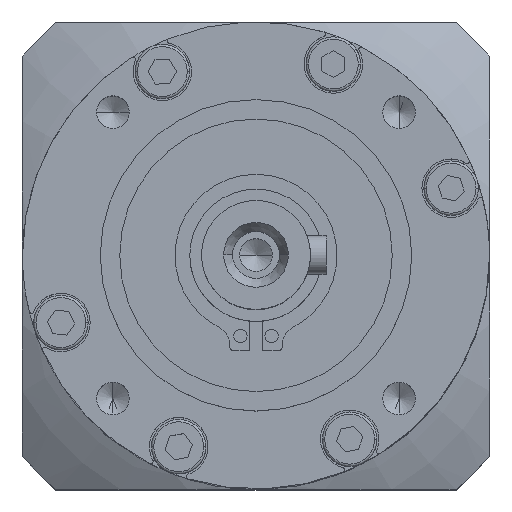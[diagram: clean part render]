
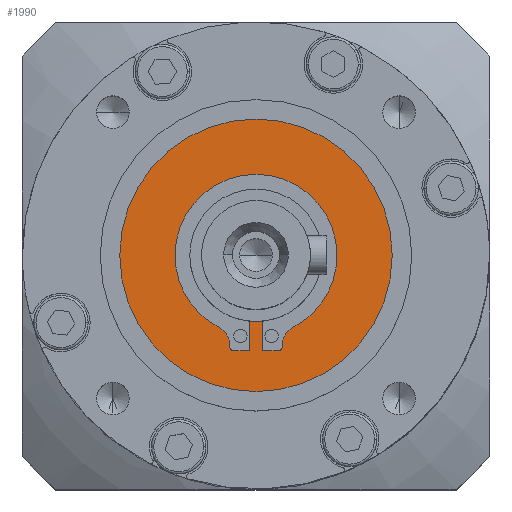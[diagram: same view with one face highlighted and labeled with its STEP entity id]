
A CAD part, top view. The second image highlights one B-rep face of the part: STEP entity #1990.
In plain terms, the highlighted planar face has unit normal (0, 0, 1).
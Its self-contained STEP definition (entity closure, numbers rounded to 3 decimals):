
#67 = VECTOR ( 'NONE', #24128, 1000. ) ;
#106 = DIRECTION ( 'NONE',  ( -1., 0., 0. ) ) ;
#259 = CARTESIAN_POINT ( 'NONE',  ( 0., 0., -1. ) ) ;
#421 = CARTESIAN_POINT ( 'NONE',  ( 0., 0., -1. ) ) ;
#656 = CARTESIAN_POINT ( 'NONE',  ( 0., -12.257, -1. ) ) ;
#1990 = ADVANCED_FACE ( 'NONE', ( #14221, #5083 ), #35353, .F. ) ;
#2624 = EDGE_CURVE ( 'NONE', #19996, #13009, #16291, .T. ) ;
#3114 = VERTEX_POINT ( 'NONE', #9226 ) ;
#3629 = DIRECTION ( 'NONE',  ( 0., 1., 0. ) ) ;
#3654 = DIRECTION ( 'NONE',  ( -1., 0., 0. ) ) ;
#3815 = DIRECTION ( 'NONE',  ( 1., 0., 0. ) ) ;
#3845 = CARTESIAN_POINT ( 'NONE',  ( -3.35, 0., -1. ) ) ;
#3931 = ORIENTED_EDGE ( 'NONE', *, *, #27485, .T. ) ;
#4302 = DIRECTION ( 'NONE',  ( 0., 0., 1. ) ) ;
#4596 = VECTOR ( 'NONE', #12412, 1000. ) ;
#5067 = DIRECTION ( 'NONE',  ( 0., 0., 1. ) ) ;
#5083 = FACE_BOUND ( 'NONE', #11645, .T. ) ;
#6140 = EDGE_CURVE ( 'NONE', #13620, #3114, #11328, .T. ) ;
#6507 = EDGE_LOOP ( 'NONE', ( #3931, #8925 ) ) ;
#6712 = ORIENTED_EDGE ( 'NONE', *, *, #18131, .F. ) ;
#6819 = ORIENTED_EDGE ( 'NONE', *, *, #6140, .F. ) ;
#7730 = VERTEX_POINT ( 'NONE', #41342 ) ;
#7796 = LINE ( 'NONE', #656, #42371 ) ;
#8319 = CIRCLE ( 'NONE', #40771, 10.4 ) ;
#8889 = CARTESIAN_POINT ( 'NONE',  ( 0., -12.257, -1. ) ) ;
#8925 = ORIENTED_EDGE ( 'NONE', *, *, #20864, .T. ) ;
#9124 = LINE ( 'NONE', #3845, #67 ) ;
#9226 = CARTESIAN_POINT ( 'NONE',  ( -3.35, -11.497, -1. ) ) ;
#9779 = AXIS2_PLACEMENT_3D ( 'NONE', #25318, #5067, #28603 ) ;
#11064 = VECTOR ( 'NONE', #3629, 1000. ) ;
#11328 = CIRCLE ( 'NONE', #36432, 2.5 ) ;
#11469 = CIRCLE ( 'NONE', #9779, 17.5 ) ;
#11470 = CARTESIAN_POINT ( 'NONE',  ( -4.716, -9.269, -1. ) ) ;
#11545 = CARTESIAN_POINT ( 'NONE',  ( 2.85, -11.757, -1. ) ) ;
#11645 = EDGE_LOOP ( 'NONE', ( #37109, #6712, #6819, #38251, #23456, #41319, #43477, #41571, #15004, #28571, #18912, #37998, #19534, #32987 ) ) ;
#12107 = CARTESIAN_POINT ( 'NONE',  ( -10.4, 0., -1. ) ) ;
#12210 = CARTESIAN_POINT ( 'NONE',  ( 3.35, -11.757, -1. ) ) ;
#12412 = DIRECTION ( 'NONE',  ( 0., 1., 0. ) ) ;
#12477 = EDGE_CURVE ( 'NONE', #27832, #15142, #31416, .T. ) ;
#12718 = EDGE_CURVE ( 'NONE', #34870, #41953, #8319, .T. ) ;
#12998 = CARTESIAN_POINT ( 'NONE',  ( 0., 0., -1. ) ) ;
#13009 = VERTEX_POINT ( 'NONE', #39118 ) ;
#13620 = VERTEX_POINT ( 'NONE', #11470 ) ;
#14221 = FACE_OUTER_BOUND ( 'NONE', #6507, .T. ) ;
#14984 = DIRECTION ( 'NONE',  ( -1., 0., 0. ) ) ;
#15004 = ORIENTED_EDGE ( 'NONE', *, *, #19117, .F. ) ;
#15142 = VERTEX_POINT ( 'NONE', #32365 ) ;
#15794 = EDGE_CURVE ( 'NONE', #29467, #39690, #27033, .T. ) ;
#15845 = AXIS2_PLACEMENT_3D ( 'NONE', #12998, #36234, #16381 ) ;
#16021 = CIRCLE ( 'NONE', #15845, 10.4 ) ;
#16291 = CIRCLE ( 'NONE', #32429, 0.5 ) ;
#16381 = DIRECTION ( 'NONE',  ( -1., 0., 0. ) ) ;
#17703 = AXIS2_PLACEMENT_3D ( 'NONE', #35172, #35034, #35001 ) ;
#18131 = EDGE_CURVE ( 'NONE', #3114, #19996, #9124, .T. ) ;
#18628 = CIRCLE ( 'NONE', #30485, 0.5 ) ;
#18912 = ORIENTED_EDGE ( 'NONE', *, *, #24765, .F. ) ;
#19117 = EDGE_CURVE ( 'NONE', #39690, #34008, #18628, .T. ) ;
#19324 = CARTESIAN_POINT ( 'NONE',  ( -0.85, 0., -1. ) ) ;
#19534 = ORIENTED_EDGE ( 'NONE', *, *, #12477, .F. ) ;
#19739 = DIRECTION ( 'NONE',  ( 0., 0., -1. ) ) ;
#19996 = VERTEX_POINT ( 'NONE', #28263 ) ;
#20143 = CARTESIAN_POINT ( 'NONE',  ( 0.85, -12.257, -1. ) ) ;
#20413 = CARTESIAN_POINT ( 'NONE',  ( 3.35, 0., -1. ) ) ;
#20435 = DIRECTION ( 'NONE',  ( 0., 0., 1. ) ) ;
#20472 = AXIS2_PLACEMENT_3D ( 'NONE', #40297, #20435, #106 ) ;
#20761 = VECTOR ( 'NONE', #21979, 1000. ) ;
#20864 = EDGE_CURVE ( 'NONE', #23023, #7730, #11469, .T. ) ;
#21979 = DIRECTION ( 'NONE',  ( 0., -1., 0. ) ) ;
#22191 = DIRECTION ( 'NONE',  ( -1., 0., 0. ) ) ;
#22247 = DIRECTION ( 'NONE',  ( 0., 0., 1. ) ) ;
#22281 = CARTESIAN_POINT ( 'NONE',  ( -2.85, -11.757, -1. ) ) ;
#23023 = VERTEX_POINT ( 'NONE', #25759 ) ;
#23456 = ORIENTED_EDGE ( 'NONE', *, *, #12718, .F. ) ;
#23610 = AXIS2_PLACEMENT_3D ( 'NONE', #421, #24099, #3815 ) ;
#23936 = DIRECTION ( 'NONE',  ( 0., 0., 1. ) ) ;
#24099 = DIRECTION ( 'NONE',  ( 0., 0., 1. ) ) ;
#24128 = DIRECTION ( 'NONE',  ( 0., -1., 0. ) ) ;
#24569 = CARTESIAN_POINT ( 'NONE',  ( 0., 0., -1. ) ) ;
#24765 = EDGE_CURVE ( 'NONE', #38620, #29467, #30597, .T. ) ;
#25318 = CARTESIAN_POINT ( 'NONE',  ( 0., 0., -1. ) ) ;
#25412 = EDGE_CURVE ( 'NONE', #15142, #38620, #39410, .T. ) ;
#25633 = DIRECTION ( 'NONE',  ( -1., 0., 0. ) ) ;
#25746 = DIRECTION ( 'NONE',  ( 0., 0., -1. ) ) ;
#25759 = CARTESIAN_POINT ( 'NONE',  ( -17.5, 0., -1. ) ) ;
#26506 = AXIS2_PLACEMENT_3D ( 'NONE', #24569, #4302, #27865 ) ;
#26774 = CARTESIAN_POINT ( 'NONE',  ( -0.85, -12.257, -1. ) ) ;
#27017 = CARTESIAN_POINT ( 'NONE',  ( -5.85, -11.497, -1. ) ) ;
#27033 = LINE ( 'NONE', #8889, #36900 ) ;
#27485 = EDGE_CURVE ( 'NONE', #7730, #23023, #32528, .T. ) ;
#27832 = VERTEX_POINT ( 'NONE', #26774 ) ;
#27865 = DIRECTION ( 'NONE',  ( -1., 0., 0. ) ) ;
#27878 = EDGE_CURVE ( 'NONE', #34008, #40565, #37681, .T. ) ;
#28008 = CARTESIAN_POINT ( 'NONE',  ( 10.4, 0., -1. ) ) ;
#28263 = CARTESIAN_POINT ( 'NONE',  ( -3.35, -11.757, -1. ) ) ;
#28571 = ORIENTED_EDGE ( 'NONE', *, *, #15794, .F. ) ;
#28603 = DIRECTION ( 'NONE',  ( 1., 0., 0. ) ) ;
#29467 = VERTEX_POINT ( 'NONE', #20143 ) ;
#29534 = VERTEX_POINT ( 'NONE', #37082 ) ;
#30485 = AXIS2_PLACEMENT_3D ( 'NONE', #11545, #34886, #14984 ) ;
#30597 = LINE ( 'NONE', #35293, #20761 ) ;
#31416 = LINE ( 'NONE', #19324, #4596 ) ;
#32365 = CARTESIAN_POINT ( 'NONE',  ( -0.85, -8.457, -1. ) ) ;
#32429 = AXIS2_PLACEMENT_3D ( 'NONE', #22281, #22247, #22191 ) ;
#32528 = CIRCLE ( 'NONE', #23610, 17.5 ) ;
#32987 = ORIENTED_EDGE ( 'NONE', *, *, #34400, .F. ) ;
#33466 = CARTESIAN_POINT ( 'NONE',  ( 2.85, -12.257, -1. ) ) ;
#34008 = VERTEX_POINT ( 'NONE', #12210 ) ;
#34289 = DIRECTION ( 'NONE',  ( 1., 0., 0. ) ) ;
#34400 = EDGE_CURVE ( 'NONE', #13009, #27832, #7796, .T. ) ;
#34870 = VERTEX_POINT ( 'NONE', #28008 ) ;
#34886 = DIRECTION ( 'NONE',  ( 0., 0., 1. ) ) ;
#35001 = DIRECTION ( 'NONE',  ( -1., 0., 0. ) ) ;
#35034 = DIRECTION ( 'NONE',  ( 0., 0., -1. ) ) ;
#35172 = CARTESIAN_POINT ( 'NONE',  ( 0., 0., -1. ) ) ;
#35293 = CARTESIAN_POINT ( 'NONE',  ( 0.85, 0., -1. ) ) ;
#35353 = PLANE ( 'NONE',  #17703 ) ;
#36234 = DIRECTION ( 'NONE',  ( 0., 0., 1. ) ) ;
#36432 = AXIS2_PLACEMENT_3D ( 'NONE', #27017, #25746, #25633 ) ;
#36900 = VECTOR ( 'NONE', #39268, 1000. ) ;
#37006 = CARTESIAN_POINT ( 'NONE',  ( 3.35, -11.497, -1. ) ) ;
#37056 = CARTESIAN_POINT ( 'NONE',  ( 0.85, -8.457, -1. ) ) ;
#37082 = CARTESIAN_POINT ( 'NONE',  ( 4.716, -9.269, -1. ) ) ;
#37109 = ORIENTED_EDGE ( 'NONE', *, *, #2624, .F. ) ;
#37681 = LINE ( 'NONE', #20413, #11064 ) ;
#37998 = ORIENTED_EDGE ( 'NONE', *, *, #25412, .F. ) ;
#38251 = ORIENTED_EDGE ( 'NONE', *, *, #40639, .F. ) ;
#38620 = VERTEX_POINT ( 'NONE', #37056 ) ;
#39118 = CARTESIAN_POINT ( 'NONE',  ( -2.85, -12.257, -1. ) ) ;
#39268 = DIRECTION ( 'NONE',  ( 1., 0., 0. ) ) ;
#39410 = CIRCLE ( 'NONE', #20472, 8.5 ) ;
#39547 = EDGE_CURVE ( 'NONE', #29534, #34870, #16021, .T. ) ;
#39594 = CARTESIAN_POINT ( 'NONE',  ( 5.85, -11.497, -1. ) ) ;
#39652 = CIRCLE ( 'NONE', #39916, 2.5 ) ;
#39690 = VERTEX_POINT ( 'NONE', #33466 ) ;
#39916 = AXIS2_PLACEMENT_3D ( 'NONE', #39594, #19739, #42957 ) ;
#40297 = CARTESIAN_POINT ( 'NONE',  ( 0., 0., -1. ) ) ;
#40565 = VERTEX_POINT ( 'NONE', #37006 ) ;
#40639 = EDGE_CURVE ( 'NONE', #41953, #13620, #40846, .T. ) ;
#40771 = AXIS2_PLACEMENT_3D ( 'NONE', #259, #23936, #3654 ) ;
#40846 = CIRCLE ( 'NONE', #26506, 10.4 ) ;
#41319 = ORIENTED_EDGE ( 'NONE', *, *, #39547, .F. ) ;
#41342 = CARTESIAN_POINT ( 'NONE',  ( 17.5, 0., -1. ) ) ;
#41571 = ORIENTED_EDGE ( 'NONE', *, *, #27878, .F. ) ;
#41953 = VERTEX_POINT ( 'NONE', #12107 ) ;
#42371 = VECTOR ( 'NONE', #34289, 1000. ) ;
#42957 = DIRECTION ( 'NONE',  ( -1., 0., 0. ) ) ;
#43399 = EDGE_CURVE ( 'NONE', #40565, #29534, #39652, .T. ) ;
#43477 = ORIENTED_EDGE ( 'NONE', *, *, #43399, .F. ) ;
